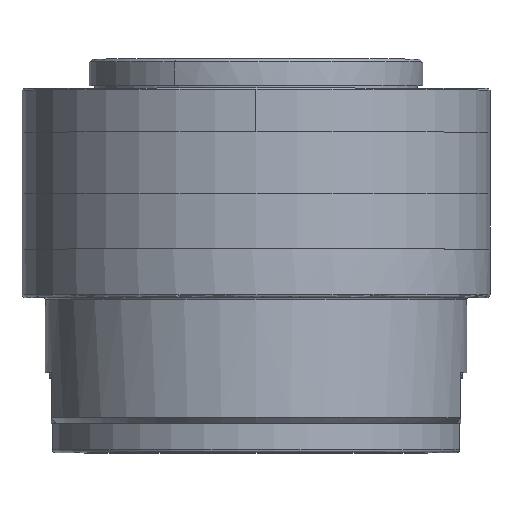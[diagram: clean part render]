
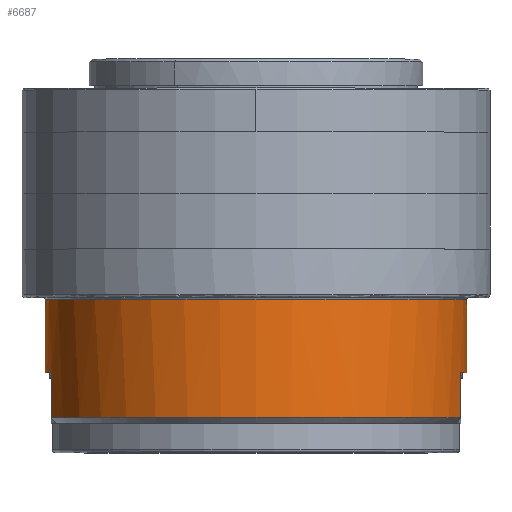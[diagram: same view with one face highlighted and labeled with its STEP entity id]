
A CAD part, top view. The second image highlights one B-rep face of the part: STEP entity #6687.
In plain terms, the highlighted cylindrical face has radius 36 mm (diameter 72 mm), a partial arc.
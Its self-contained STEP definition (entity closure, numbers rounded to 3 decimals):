
#551 = CARTESIAN_POINT ( 'NONE',  ( -38.686, -7.1, 0. ) ) ;
#1422 = CIRCLE ( 'NONE', #68093, 36. ) ;
#1822 = EDGE_CURVE ( 'NONE', #25899, #92134, #51836, .T. ) ;
#5655 = CARTESIAN_POINT ( 'NONE',  ( 33.314, -7.1, 0. ) ) ;
#6687 = ADVANCED_FACE ( 'NONE', ( #56002 ), #34791, .T. ) ;
#6996 = VERTEX_POINT ( 'NONE', #85476 ) ;
#7760 = EDGE_LOOP ( 'NONE', ( #62047, #26590, #14633, #26005, #85023, #35462, #52856, #31981 ) ) ;
#7974 = DIRECTION ( 'NONE',  ( 0., -1., 0. ) ) ;
#8354 = DIRECTION ( 'NONE',  ( 0., -1., 0. ) ) ;
#14633 = ORIENTED_EDGE ( 'NONE', *, *, #42899, .T. ) ;
#16497 = DIRECTION ( 'NONE',  ( 0., 0., -1. ) ) ;
#16795 = DIRECTION ( 'NONE',  ( 0., 1., 0. ) ) ;
#19671 = VECTOR ( 'NONE', #29429, 1000. ) ;
#19803 = AXIS2_PLACEMENT_3D ( 'NONE', #52478, #61939, #16497 ) ;
#23874 = LINE ( 'NONE', #27838, #19671 ) ;
#24463 = CARTESIAN_POINT ( 'NONE',  ( 32.237, -14.8, 8.743 ) ) ;
#25286 = EDGE_CURVE ( 'NONE', #6996, #109821, #95118, .T. ) ;
#25899 = VERTEX_POINT ( 'NONE', #65474 ) ;
#26005 = ORIENTED_EDGE ( 'NONE', *, *, #1822, .T. ) ;
#26590 = ORIENTED_EDGE ( 'NONE', *, *, #57253, .F. ) ;
#27024 = CARTESIAN_POINT ( 'NONE',  ( 33.314, -92.269, 0. ) ) ;
#27545 = CARTESIAN_POINT ( 'NONE',  ( 32.237, -7.1, 8.743 ) ) ;
#27838 = CARTESIAN_POINT ( 'NONE',  ( 32.237, -92.269, 8.743 ) ) ;
#27969 = CARTESIAN_POINT ( 'NONE',  ( -38.234, -7.1, 5.869 ) ) ;
#28193 = CARTESIAN_POINT ( 'NONE',  ( -38.686, -92.269, 0. ) ) ;
#28849 = CARTESIAN_POINT ( 'NONE',  ( -37.608, -7.1, 8.743 ) ) ;
#29002 = VECTOR ( 'NONE', #98988, 1000. ) ;
#29429 = DIRECTION ( 'NONE',  ( 0., 1., 0. ) ) ;
#30321 = VERTEX_POINT ( 'NONE', #27545 ) ;
#31981 = ORIENTED_EDGE ( 'NONE', *, *, #54718, .T. ) ;
#34791 = CYLINDRICAL_SURFACE ( 'NONE', #56862, 36. ) ;
#35462 = ORIENTED_EDGE ( 'NONE', *, *, #58610, .F. ) ;
#36163 = CARTESIAN_POINT ( 'NONE',  ( -37.608, -92.269, 8.743 ) ) ;
#38192 = LINE ( 'NONE', #36163, #97630 ) ;
#41629 = EDGE_CURVE ( 'NONE', #92134, #30321, #23874, .T. ) ;
#42899 = EDGE_CURVE ( 'NONE', #98254, #25899, #38192, .T. ) ;
#44702 = AXIS2_PLACEMENT_3D ( 'NONE', #101111, #91251, #109005 ) ;
#44766 = CARTESIAN_POINT ( 'NONE',  ( -2.686, -7.1, 0. ) ) ;
#46151 = VERTEX_POINT ( 'NONE', #5655 ) ;
#46170 = B_SPLINE_CURVE_WITH_KNOTS ( 'NONE', 3,
 ( #73000, #54423, #27969, #100303, #82849, #551 ),
 .UNSPECIFIED., .F., .F.,
 ( 4, 2, 4 ),
 ( 0., 0.5, 1. ),
 .UNSPECIFIED. ) ;
#51836 = CIRCLE ( 'NONE', #19803, 36. ) ;
#52478 = CARTESIAN_POINT ( 'NONE',  ( -2.686, -14.8, 0. ) ) ;
#52856 = ORIENTED_EDGE ( 'NONE', *, *, #62805, .T. ) ;
#54423 = CARTESIAN_POINT ( 'NONE',  ( -37.965, -7.1, 7.315 ) ) ;
#54718 = EDGE_CURVE ( 'NONE', #95693, #109821, #74923, .T. ) ;
#56002 = FACE_OUTER_BOUND ( 'NONE', #7760, .T. ) ;
#56862 = AXIS2_PLACEMENT_3D ( 'NONE', #98284, #16795, #78961 ) ;
#57253 = EDGE_CURVE ( 'NONE', #98254, #6996, #46170, .T. ) ;
#58610 = EDGE_CURVE ( 'NONE', #46151, #30321, #1422, .T. ) ;
#61466 = LINE ( 'NONE', #27024, #29002 ) ;
#61939 = DIRECTION ( 'NONE',  ( 0., 1., 0. ) ) ;
#62047 = ORIENTED_EDGE ( 'NONE', *, *, #25286, .F. ) ;
#62805 = EDGE_CURVE ( 'NONE', #46151, #95693, #61466, .T. ) ;
#65474 = CARTESIAN_POINT ( 'NONE',  ( -37.608, -14.8, 8.743 ) ) ;
#68093 = AXIS2_PLACEMENT_3D ( 'NONE', #44766, #8354, #117150 ) ;
#73000 = CARTESIAN_POINT ( 'NONE',  ( -37.608, -7.1, 8.743 ) ) ;
#74923 = CIRCLE ( 'NONE', #44702, 36. ) ;
#78329 = CARTESIAN_POINT ( 'NONE',  ( -38.686, 5.4, 0. ) ) ;
#78961 = DIRECTION ( 'NONE',  ( 1., 0., 0. ) ) ;
#82849 = CARTESIAN_POINT ( 'NONE',  ( -38.686, -7.1, 1.472 ) ) ;
#85023 = ORIENTED_EDGE ( 'NONE', *, *, #41629, .T. ) ;
#85476 = CARTESIAN_POINT ( 'NONE',  ( -38.686, -7.1, 0. ) ) ;
#91251 = DIRECTION ( 'NONE',  ( 0., -1., 0. ) ) ;
#92134 = VERTEX_POINT ( 'NONE', #24463 ) ;
#94186 = CARTESIAN_POINT ( 'NONE',  ( 33.314, 5.4, 0. ) ) ;
#95118 = LINE ( 'NONE', #28193, #107783 ) ;
#95693 = VERTEX_POINT ( 'NONE', #94186 ) ;
#97630 = VECTOR ( 'NONE', #7974, 1000. ) ;
#98254 = VERTEX_POINT ( 'NONE', #28849 ) ;
#98284 = CARTESIAN_POINT ( 'NONE',  ( -2.686, -92.269, 0. ) ) ;
#98988 = DIRECTION ( 'NONE',  ( 0., 1., 0. ) ) ;
#100303 = CARTESIAN_POINT ( 'NONE',  ( -38.595, -7.1, 2.94 ) ) ;
#101111 = CARTESIAN_POINT ( 'NONE',  ( -2.686, 5.4, 0. ) ) ;
#107586 = DIRECTION ( 'NONE',  ( 0., 1., 0. ) ) ;
#107783 = VECTOR ( 'NONE', #107586, 1000. ) ;
#109005 = DIRECTION ( 'NONE',  ( 0., 0., -1. ) ) ;
#109821 = VERTEX_POINT ( 'NONE', #78329 ) ;
#117150 = DIRECTION ( 'NONE',  ( 0., 0., -1. ) ) ;
